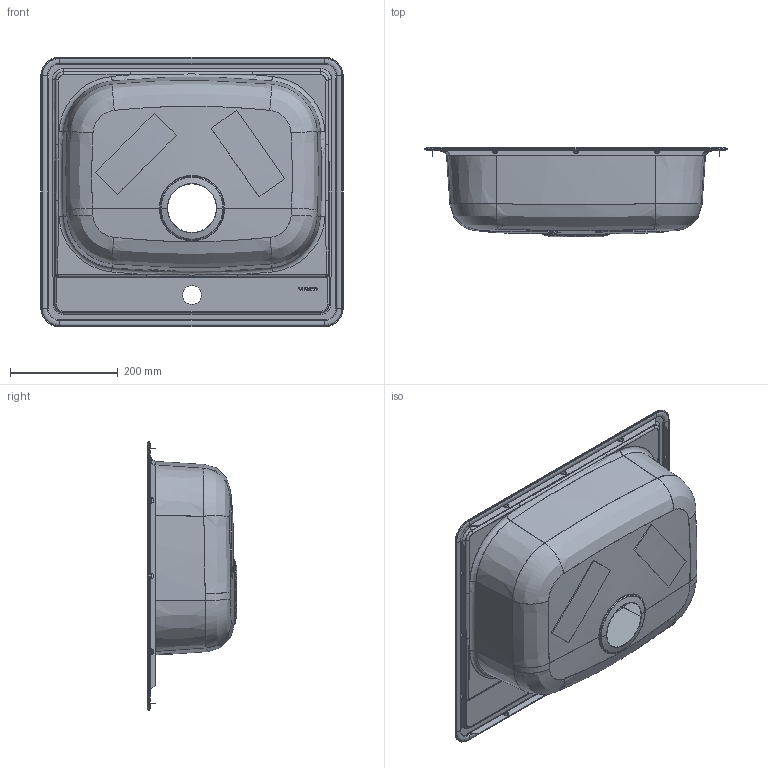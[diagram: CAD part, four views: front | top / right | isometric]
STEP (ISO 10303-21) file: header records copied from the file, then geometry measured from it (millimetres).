
FILE_DESCRIPTION((''),'2;1');
FILE_NAME('1106813-MOR010N-NAI-90-056X50M1_ASM','2020-04-10T',('rafaelz'),('Audax d.o.o.'),'PRO/ENGINEER BY PARAMETRIC TECHNOLOGY CORPORATION, 2017170','PRO/ENGINEER BY PARAMETRIC TECHNOLOGY CORPORATION, 2017170','');
FILE_SCHEMA(('CONFIG_CONTROL_DESIGN'));
Length unit declared in the file: millimetre
Products named in the file (6): T40_1107453-POM-MOR010_AF0; 1018622-OBLOGA-DNA-160X60X2_AF0; 1018622-OBLOGA-DNA-160X60X2_AF1; 1107453-POM-MOR010_ASM; 1110455-TESNILO-KOMPONENTA-_AF0; 1106813-MOR010N-NAI-90-056X50M1_ASM
Assembly tree (5 placements, depth 3):
  1106813-MOR010N-NAI-90-056X50M1_ASM
    1107453-POM-MOR010_ASM
      T40_1107453-POM-MOR010_AF0
      1018622-OBLOGA-DNA-160X60X2_AF0
      1018622-OBLOGA-DNA-160X60X2_AF1
    1110455-TESNILO-KOMPONENTA-_AF0
Bounding box: 560 x 165.6 x 500 mm (x, y, z)
Volume: 407584.9 mm3; surface area: 1086336.9 mm2
Topology: 4 solids, 4 shells, 822 faces, 1964 edges, 1141 vertices
Faces by surface type: cylinder 223, torus 188, plane 187, cone 144, bspline 80
Entity records: 33743 total; most frequent: CARTESIAN_POINT 14619, DIRECTION 4204, ORIENTED_EDGE 3928, EDGE_CURVE 1964, AXIS2_PLACEMENT_3D 1706, VERTEX_POINT 1141, CIRCLE 950, EDGE_LOOP 853
